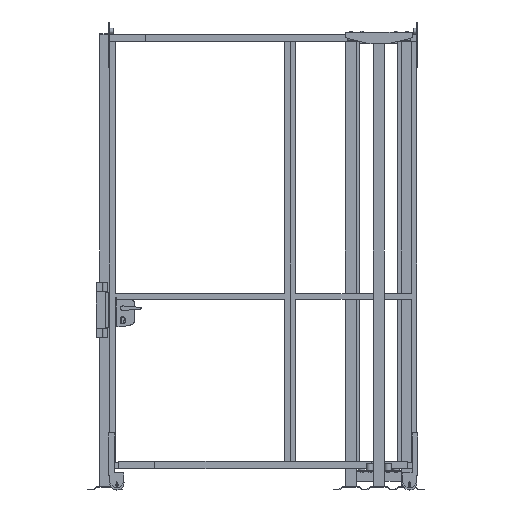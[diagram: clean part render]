
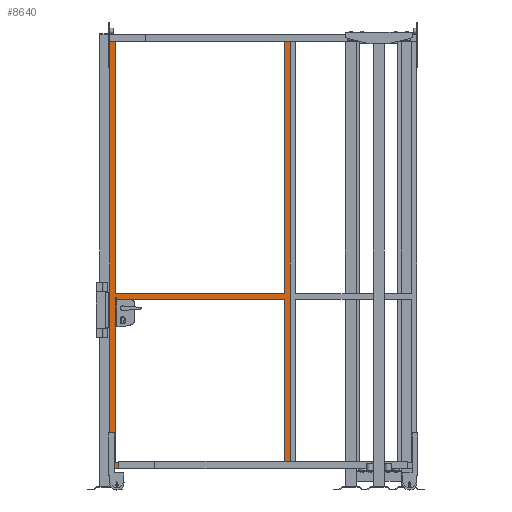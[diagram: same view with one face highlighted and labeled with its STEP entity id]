
A CAD part, front view. The second image highlights one B-rep face of the part: STEP entity #8640.
In plain terms, the highlighted planar face has unit normal (0, -1, 0).
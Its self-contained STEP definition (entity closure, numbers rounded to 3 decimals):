
#908=FACE_BOUND('',#1439,.T.);
#909=FACE_BOUND('',#1440,.T.);
#970=FACE_OUTER_BOUND('',#1438,.T.);
#1438=EDGE_LOOP('',(#6103,#6104,#6105,#6106));
#1439=EDGE_LOOP('',(#6107,#6108,#6109,#6110));
#1440=EDGE_LOOP('',(#6111,#6112,#6113,#6114));
#2027=LINE('',#12533,#3149);
#2033=LINE('',#12545,#3155);
#2034=LINE('',#12548,#3156);
#2037=LINE('',#12555,#3159);
#2038=LINE('',#12557,#3160);
#2039=LINE('',#12559,#3161);
#2040=LINE('',#12560,#3162);
#2041=LINE('',#12562,#3163);
#2042=LINE('',#12564,#3164);
#2043=LINE('',#12565,#3165);
#2044=LINE('',#12567,#3166);
#2045=LINE('',#12568,#3167);
#3149=VECTOR('',#9938,1.);
#3155=VECTOR('',#9946,1.);
#3156=VECTOR('',#9949,1.);
#3159=VECTOR('',#9954,1.);
#3160=VECTOR('',#9955,1.);
#3161=VECTOR('',#9956,1.);
#3162=VECTOR('',#9957,1.);
#3163=VECTOR('',#9958,1.);
#3164=VECTOR('',#9959,1.);
#3165=VECTOR('',#9960,1.);
#3166=VECTOR('',#9961,1.);
#3167=VECTOR('',#9962,1.);
#4198=VERTEX_POINT('',#12529);
#4200=VERTEX_POINT('',#12532);
#4203=VERTEX_POINT('',#12539);
#4205=VERTEX_POINT('',#12543);
#4206=VERTEX_POINT('',#12547);
#4208=VERTEX_POINT('',#12553);
#4209=VERTEX_POINT('',#12554);
#4210=VERTEX_POINT('',#12556);
#4211=VERTEX_POINT('',#12558);
#4212=VERTEX_POINT('',#12561);
#4213=VERTEX_POINT('',#12563);
#4214=VERTEX_POINT('',#12566);
#4953=EDGE_CURVE('',#4198,#4200,#2027,.T.);
#4959=EDGE_CURVE('',#4205,#4203,#2033,.T.);
#4960=EDGE_CURVE('',#4206,#4203,#2034,.T.);
#4963=EDGE_CURVE('',#4208,#4209,#2037,.T.);
#4964=EDGE_CURVE('',#4210,#4209,#2038,.T.);
#4965=EDGE_CURVE('',#4211,#4210,#2039,.T.);
#4966=EDGE_CURVE('',#4208,#4211,#2040,.T.);
#4967=EDGE_CURVE('',#4198,#4212,#2041,.T.);
#4968=EDGE_CURVE('',#4212,#4213,#2042,.T.);
#4969=EDGE_CURVE('',#4213,#4200,#2043,.T.);
#4970=EDGE_CURVE('',#4205,#4214,#2044,.T.);
#4971=EDGE_CURVE('',#4214,#4206,#2045,.T.);
#6103=ORIENTED_EDGE('',*,*,#4963,.T.);
#6104=ORIENTED_EDGE('',*,*,#4964,.F.);
#6105=ORIENTED_EDGE('',*,*,#4965,.F.);
#6106=ORIENTED_EDGE('',*,*,#4966,.F.);
#6107=ORIENTED_EDGE('',*,*,#4967,.T.);
#6108=ORIENTED_EDGE('',*,*,#4968,.T.);
#6109=ORIENTED_EDGE('',*,*,#4969,.T.);
#6110=ORIENTED_EDGE('',*,*,#4953,.F.);
#6111=ORIENTED_EDGE('',*,*,#4959,.F.);
#6112=ORIENTED_EDGE('',*,*,#4970,.T.);
#6113=ORIENTED_EDGE('',*,*,#4971,.T.);
#6114=ORIENTED_EDGE('',*,*,#4960,.T.);
#8242=PLANE('',#9153);
#8640=ADVANCED_FACE('',(#970,#908,#909),#8242,.F.);
#9153=AXIS2_PLACEMENT_3D('',#12552,#9952,#9953);
#9938=DIRECTION('',(1.,0.,0.));
#9946=DIRECTION('',(-1.,0.,0.));
#9949=DIRECTION('',(0.,0.,1.));
#9952=DIRECTION('center_axis',(0.,1.,0.));
#9953=DIRECTION('ref_axis',(0.,0.,1.));
#9954=DIRECTION('',(0.,0.,-1.));
#9955=DIRECTION('',(-1.,0.,0.));
#9956=DIRECTION('',(0.,0.,-1.));
#9957=DIRECTION('',(1.,0.,0.));
#9958=DIRECTION('',(0.,0.,1.));
#9959=DIRECTION('',(1.,0.,0.));
#9960=DIRECTION('',(0.,0.,-1.));
#9961=DIRECTION('',(0.,0.,-1.));
#9962=DIRECTION('',(-1.,0.,0.));
#12529=CARTESIAN_POINT('',(30.,0.,965.));
#12532=CARTESIAN_POINT('',(970.,0.,965.));
#12533=CARTESIAN_POINT('',(500.,0.,965.));
#12539=CARTESIAN_POINT('',(30.,0.,935.));
#12543=CARTESIAN_POINT('',(970.,0.,935.));
#12545=CARTESIAN_POINT('',(500.,0.,935.));
#12547=CARTESIAN_POINT('',(30.,0.,30.));
#12548=CARTESIAN_POINT('',(30.,0.,1200.));
#12552=CARTESIAN_POINT('Origin',(500.,0.,1200.));
#12553=CARTESIAN_POINT('',(0.,0.,2400.));
#12554=CARTESIAN_POINT('',(0.,0.,0.));
#12555=CARTESIAN_POINT('',(0.,0.,1200.));
#12556=CARTESIAN_POINT('',(1000.,0.,0.));
#12557=CARTESIAN_POINT('',(500.,0.,0.));
#12558=CARTESIAN_POINT('',(1000.,0.,2400.));
#12559=CARTESIAN_POINT('',(1000.,0.,1200.));
#12560=CARTESIAN_POINT('',(500.,0.,2400.));
#12561=CARTESIAN_POINT('',(30.,0.,2370.));
#12562=CARTESIAN_POINT('',(30.,0.,1200.));
#12563=CARTESIAN_POINT('',(970.,0.,2370.));
#12564=CARTESIAN_POINT('',(500.,0.,2370.));
#12565=CARTESIAN_POINT('',(970.,0.,1200.));
#12566=CARTESIAN_POINT('',(970.,0.,30.));
#12567=CARTESIAN_POINT('',(970.,0.,1200.));
#12568=CARTESIAN_POINT('',(500.,0.,30.));
